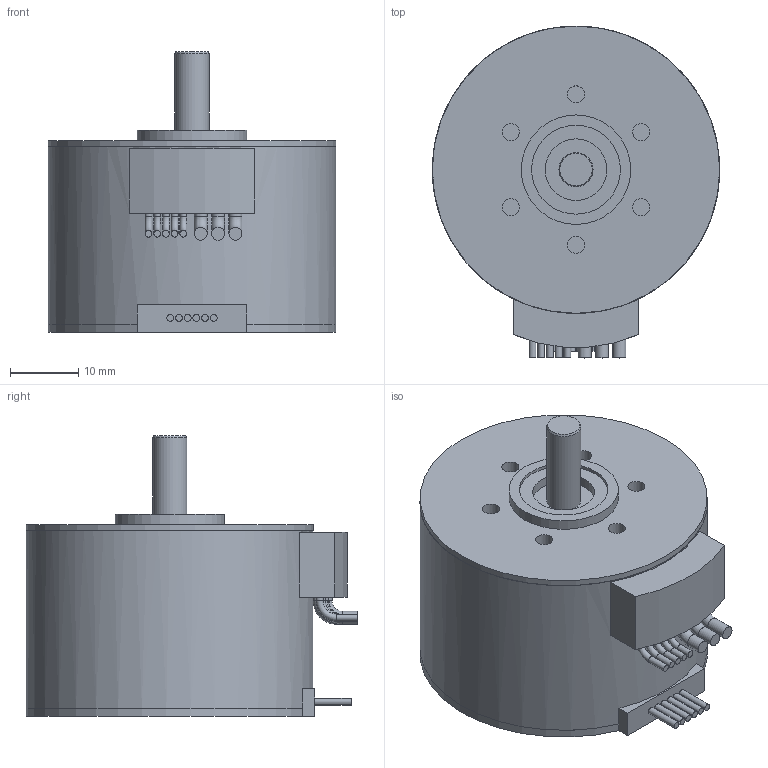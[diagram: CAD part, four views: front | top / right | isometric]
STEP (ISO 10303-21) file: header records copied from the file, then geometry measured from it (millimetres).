
FILE_DESCRIPTION(/* description */ (''),/* implementation_level */ '2;1');
FILE_NAME(/* name */ '4221.BXT_IEF3.stp',/* time_stamp */ '2019-09-17T16:19:57+02:00',/* author */ ('DR. FRITZ FAULHABER GmbH & Co. KG'),/* organization */ ('DR. FRITZ FAULHABER GmbH & Co. KG'),/* preprocessor_version */ 'ST-DEVELOPER v16.7',/* originating_system */ 'SIEMENS PLM Software NX 12.0',/* authorisation */ '');
FILE_SCHEMA (('AUTOMOTIVE_DESIGN { 1 0 10303 214 3 1 1 1 }'));
Length unit declared in the file: millimetre
Products named in the file (1): H00002279-A-4221.0H006
Bounding box: 42 x 48.5 x 41 mm (x, y, z)
Volume: 40148.3 mm3; surface area: 7615 mm2
Topology: 1 solids, 1 shells, 96 faces, 199 edges, 126 vertices
Faces by surface type: plane 45, cylinder 42, torus 8, cone 1
Full cylindrical faces by diameter (mm): 1 x10, 1.9 x6, 2.5 x6, 5 x1, 9 x1, 13 x1, 16 x1, 41.999 x1, 42 x2
Entity records: 2344 total; most frequent: DIRECTION 438, CARTESIAN_POINT 375, ORIENTED_EDGE 312, AXIS2_PLACEMENT_3D 185, EDGE_LOOP 156, EDGE_CURVE 156, VERTEX_POINT 122, FACE_BOUND 106
